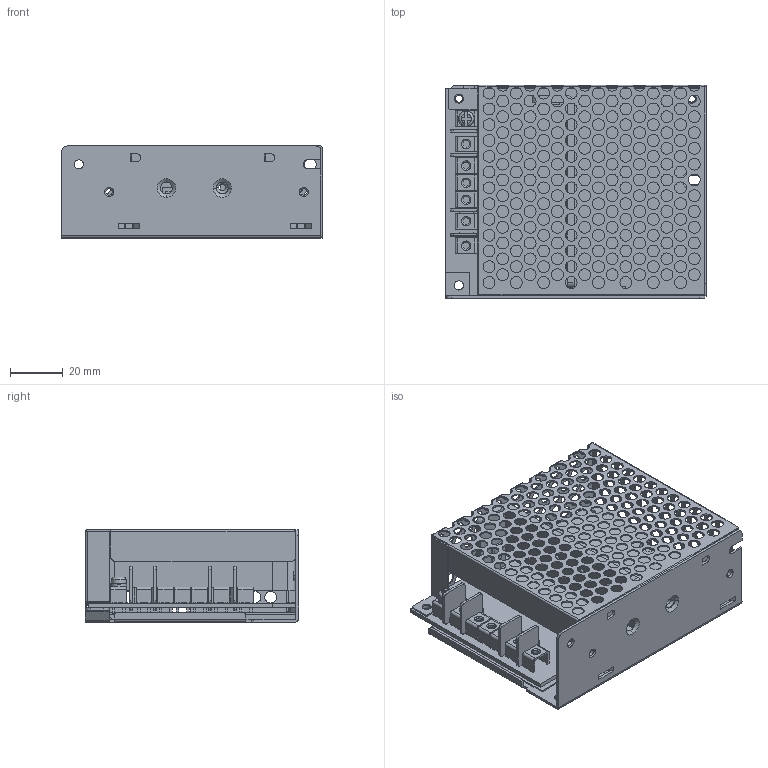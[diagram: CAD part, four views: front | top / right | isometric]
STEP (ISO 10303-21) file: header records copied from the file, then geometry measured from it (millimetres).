
FILE_DESCRIPTION(('Creo Elements/Direct Modeling STEP Export'),'2;1');
FILE_NAME('ERDN20-20260326.stp','2026-03-26T15:04:54',(''),(''),'Creo Elements/Direct Modeling STEP processor for AP214 (Solid Model)','Creo Elements/Direct Modeling 19.0G 27-Nov-2017 (C) Parametric Technology GmbH','');
FILE_SCHEMA(('AUTOMOTIVE_DESIGN { 1 0 10303 214 1 1 1 1 }'));
Length unit declared in the file: millimetre
Products named in the file (20): 1HH2932D.PRT; 1HH3ERDN20-B.PRT; ER20-78840.PRT; 1.PRT; 3.PRT; 4.PRT; _X2_88C5914D_X0_1-66970.ASM; TB1.ASM; 1HH160X19-3R0_1.PRT; _X2_88C5914D_X0_1-39230.ASM; PIN2-2_1.PRT; PIN2-2.PRT; HS.PRT; HS-SZ100_1.ASM; 1HH3ERDN20-B.PRT.1; ER20-PCB.ASM; 932A-T.PRT; 932D-D.PRT; ER20-461750.ASM; ERDN20.stp
Assembly tree (25 placements, depth 6):
  ERDN20.stp
    ER20-461750.ASM
      932D-D.PRT
      932A-T.PRT
      ER20-PCB.ASM
        1HH3ERDN20-B.PRT.1
        HS-SZ100_1.ASM
          HS.PRT
          PIN2-2.PRT
          PIN2-2_1.PRT
        _X2_88C5914D_X0_1-39230.ASM
          1.PRT  x6
        1HH160X19-3R0_1.PRT
        TB1.ASM
          _X2_88C5914D_X0_1-66970.ASM
            4.PRT
            3.PRT
          1.PRT
        ER20-78840.PRT
        1HH3ERDN20-B.PRT
      1HH2932D.PRT
Bounding box: 99 x 81 x 35 mm (x, y, z)
Volume: 39081.4 mm3; surface area: 85927.6 mm2
Topology: 19 solids, 19 shells, 1647 faces, 4754 edges, 3133 vertices
Faces by surface type: cylinder 1020, plane 551, torus 56, bspline 16, cone 4
Entity records: 47851 total; most frequent: CARTESIAN_POINT 9141, ORIENTED_EDGE 8260, DIRECTION 7333, EDGE_CURVE 4130, VERTEX_POINT 2725, AXIS2_PLACEMENT_3D 2622, EDGE_LOOP 2159, VECTOR 2089
